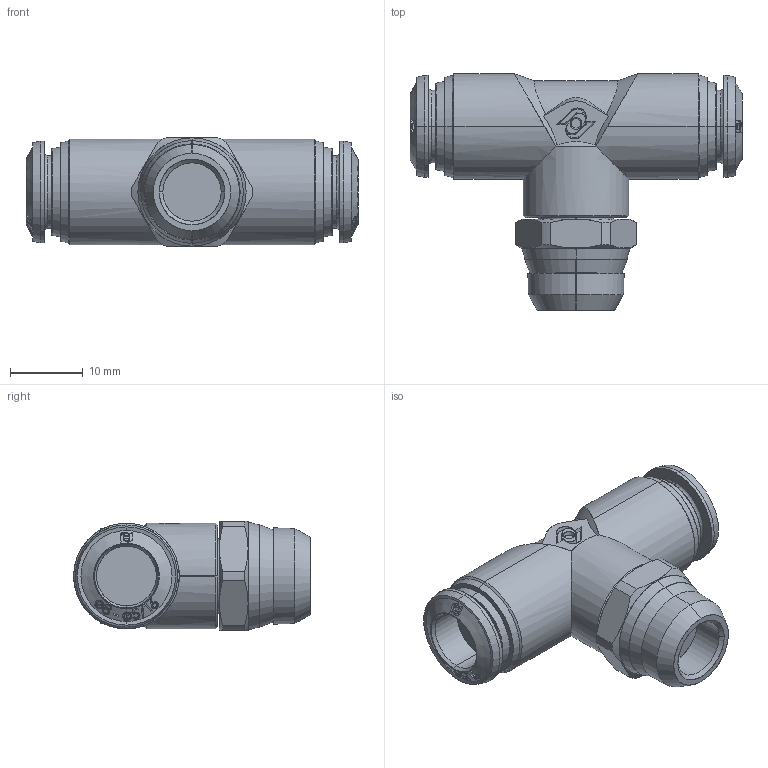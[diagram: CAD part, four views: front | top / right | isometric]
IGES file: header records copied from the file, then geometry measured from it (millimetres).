
Start section: SolidWorks IGES file using analytic representation for surfaces
Global section: file name: K:\Disegni Esecutivi\Serie 50000\ASSIEMI_50000\50211\ASSIEMI_PIENI_50211\5021100007.IGS; native system: SolidWorks 2008; preprocessor: SolidWorks 2008; author: cad02; date: 080521.164931; units: millimetre
Bounding box: 45.6 x 32.5 x 15 mm (x, y, z)
Surface area: 4108 mm2 (no closed solid volume)
Topology: 0 solids, 0 shells, 436 faces, 5091 edges, 5085 vertices
Faces by surface type: bspline 289, revolution 147
